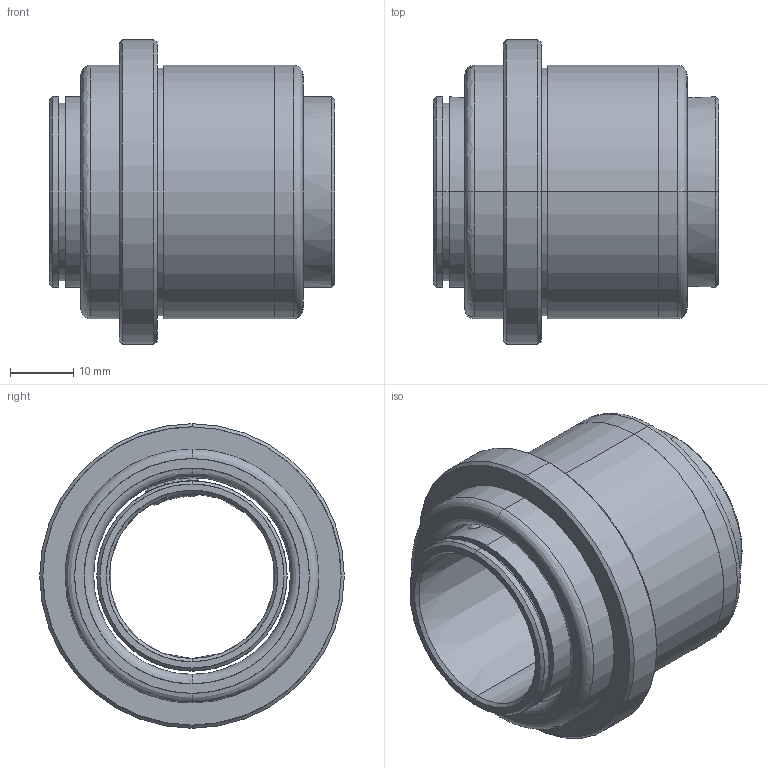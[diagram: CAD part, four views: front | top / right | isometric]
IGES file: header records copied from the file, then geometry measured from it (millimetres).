
Start section: START RECORD GO HERE.
Global section: file name: 732-25.igs; native system: DASSAULT SYSTEMES CATIA V5 R20 - www.3ds.com; preprocessor: CATIA Version 5 Release 20 ; author: Utente; organization: NB04-ASUS; date: 20210110.202829; units: millimetre
Bounding box: 45 x 48 x 48 mm (x, y, z)
Surface area: 18162.3 mm2 (no closed solid volume)
Topology: 0 solids, 0 shells, 74 faces, 412 edges, 412 vertices
Faces by surface type: revolution 64, plane 10
